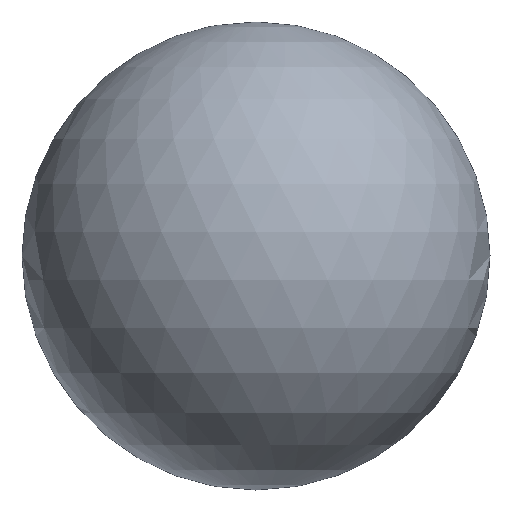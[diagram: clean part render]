
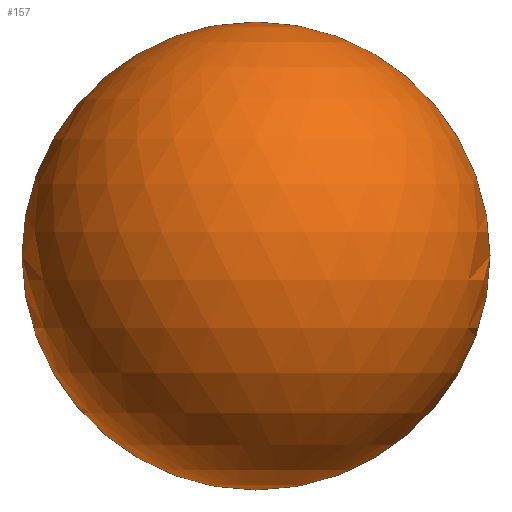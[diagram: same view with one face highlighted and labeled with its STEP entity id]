
A CAD part, left-side view. The second image highlights one B-rep face of the part: STEP entity #157.
In plain terms, the highlighted spherical face has radius 190.5 mm.
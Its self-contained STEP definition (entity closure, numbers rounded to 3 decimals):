
#21 = CARTESIAN_POINT ( 'NONE',  ( 0., 0., -190.5 ) ) ;
#38 = SPHERICAL_SURFACE ( 'NONE', #103, 190.5 ) ;
#44 = CIRCLE ( 'NONE', #126, 190.5 ) ;
#46 = FACE_OUTER_BOUND ( 'NONE', #70, .T. ) ;
#60 = CIRCLE ( 'NONE', #105, 190.5 ) ;
#62 = ORIENTED_EDGE ( 'NONE', *, *, #156, .F. ) ;
#63 = ORIENTED_EDGE ( 'NONE', *, *, #94, .F. ) ;
#70 = EDGE_LOOP ( 'NONE', ( #62, #63 ) ) ;
#82 = VERTEX_POINT ( 'NONE', #21 ) ;
#88 = DIRECTION ( 'NONE',  ( 1., 0., 0. ) ) ;
#90 = DIRECTION ( 'NONE',  ( 1., 0., 0. ) ) ;
#91 = CARTESIAN_POINT ( 'NONE',  ( 0., 0., 0. ) ) ;
#93 = CARTESIAN_POINT ( 'NONE',  ( 0., 0., 190.5 ) ) ;
#94 = EDGE_CURVE ( 'NONE', #82, #97, #60, .T. ) ;
#96 = DIRECTION ( 'NONE',  ( 0., 0., 1. ) ) ;
#97 = VERTEX_POINT ( 'NONE', #93 ) ;
#102 = CARTESIAN_POINT ( 'NONE',  ( 0., 0., 0. ) ) ;
#103 = AXIS2_PLACEMENT_3D ( 'NONE', #104, #133, #90 ) ;
#104 = CARTESIAN_POINT ( 'NONE',  ( 0., 0., 0. ) ) ;
#105 = AXIS2_PLACEMENT_3D ( 'NONE', #91, #109, #114 ) ;
#109 = DIRECTION ( 'NONE',  ( 1., 0., 0. ) ) ;
#114 = DIRECTION ( 'NONE',  ( 0., 0., 1. ) ) ;
#126 = AXIS2_PLACEMENT_3D ( 'NONE', #102, #88, #96 ) ;
#133 = DIRECTION ( 'NONE',  ( 0., 0., -1. ) ) ;
#156 = EDGE_CURVE ( 'NONE', #97, #82, #44, .T. ) ;
#157 = ADVANCED_FACE ( 'NONE', ( #46 ), #38, .T. ) ;
